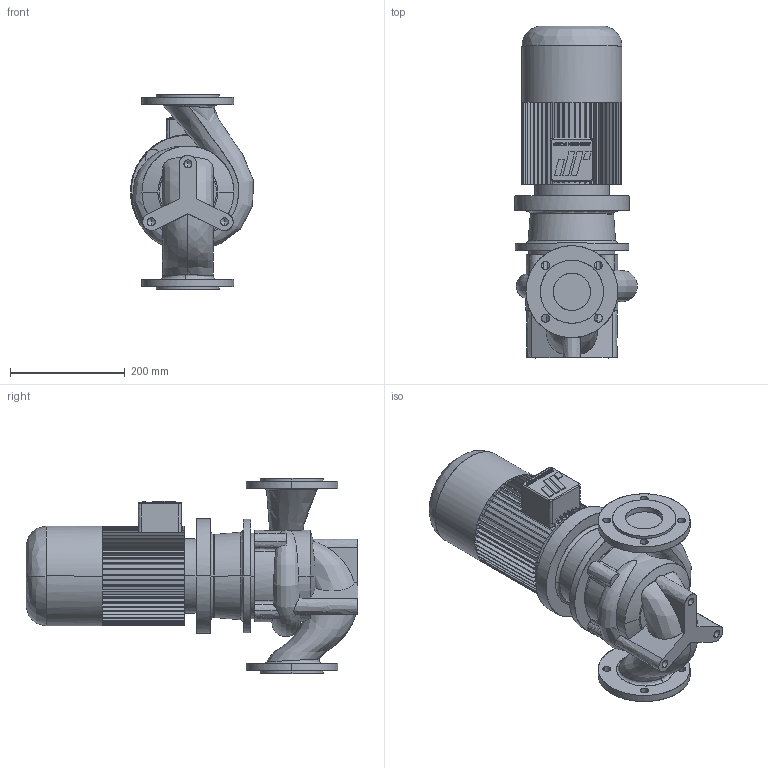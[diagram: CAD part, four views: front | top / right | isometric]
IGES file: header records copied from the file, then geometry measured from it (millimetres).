
Start section: CombiLine
Global section: file name: CLB_65-125_IEC90S.igs; native system:  By UGS Corp.; preprocessor: XPlus GENERIC/IGES 3.0; author: Stageplaats; organization: Johnson Pump Water B.V.; date: 20070713.132016; units: millimetre
Bounding box: 214.24 x 578 x 340 mm (x, y, z)
Surface area: 698905.5 mm2 (no closed solid volume)
Topology: 0 solids, 0 shells, 522 faces, 3168 edges, 3162 vertices
Faces by surface type: bspline 522
